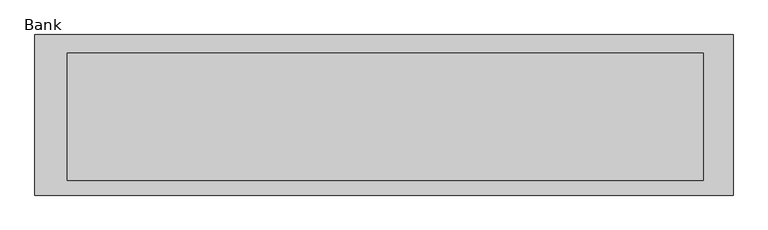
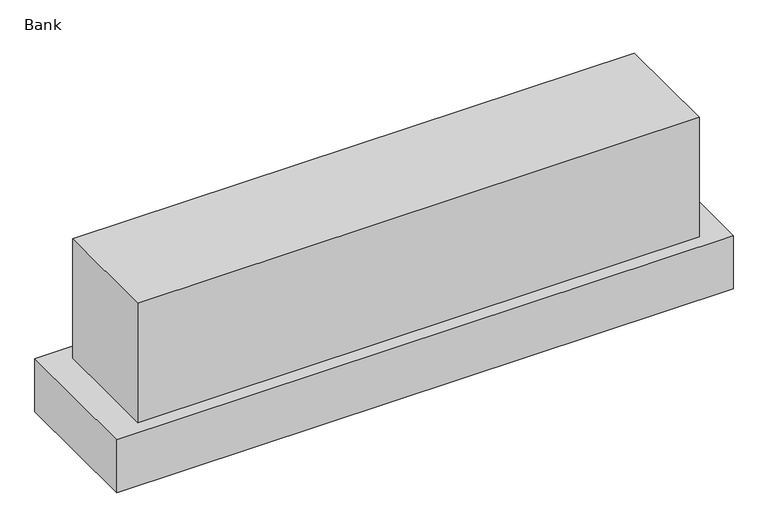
"""IFC4 building model written with IfcOpenShell, lengths in millimetres: furniture geometry, Fixierte Ausstattung Bank : Bank."""

from ifc_helpers import new_model, si_unit, frame, origin, origin_with_axes, place, context, project, spatial, polyline, outline, extrude, source, transform, mapped, element, save


def bank_43931836(model_context):
    return source(origin(), model_context, "Body", "SweptSolid", [
        extrude(outline(polyline([(1093.6807613, 258.36829), (1093.6807613, -246.5751298), (-1101.3192387, -246.5751298), (-1101.3192387, 258.36829), (1093.6807613, 258.36829)])), frame((0.0, 0.0, -200.0), z_axis=(0.0, 0.0, 1.0), x_axis=(1.0, 0.0, 0.0)), (0.0, 0.0, 1.0), 200.0),
        extrude(outline(polyline([(1000.0, -200.0), (-1000.0, -200.0), (-1000.0, 200.0), (1000.0, 200.0), (1000.0, -200.0)])), origin_with_axes(), (0.0, 0.0, 1.0), 450.0),
    ])


if __name__ == "__main__":
    model = new_model("IFC4")
    model_context = context("Model", 3, world=origin())
    ifc_project = project(units=[si_unit("LENGTHUNIT", "METRE", prefix="MILLI")], contexts=[model_context])
    site = spatial("IfcSite", under=ifc_project)
    building = spatial("IfcBuilding", under=site)
    placement = place(None, origin())
    bank_shape = bank_43931836(model_context)
    element("IfcFurniture", 1, ObjectType="Fixierte Ausstattung Bank : Bank", at=placement, inside=building, context=model_context, shape_type="MappedRepresentation", body=[
        mapped(bank_shape, transform((0.0, 0.0, 0.0), x_axis=(1.0, 0.0, 0.0), y_axis=(0.0, 1.0, 0.0), z_axis=(0.0, 0.0, 1.0))),
    ])
    save(model, "model.ifc")
